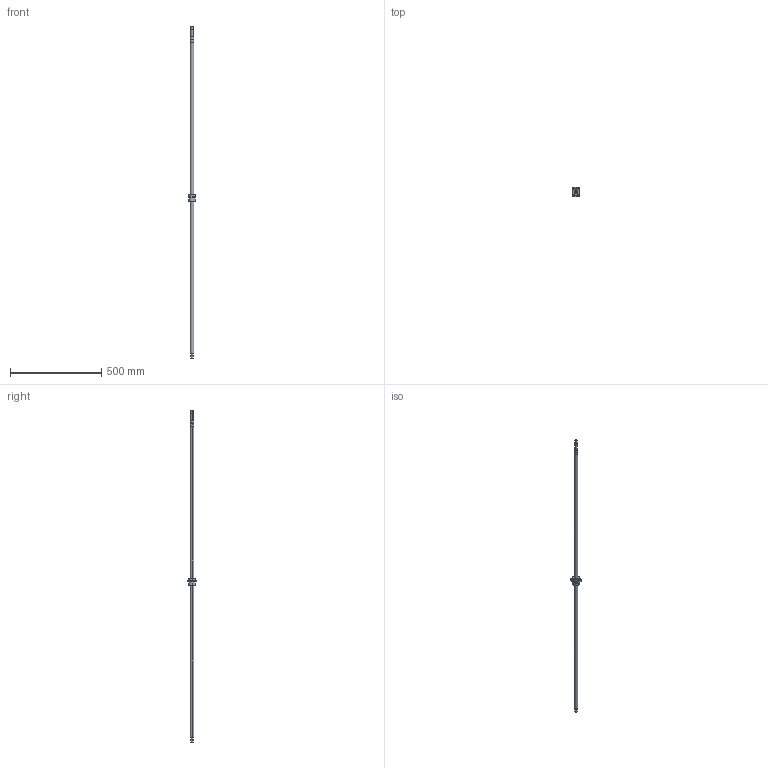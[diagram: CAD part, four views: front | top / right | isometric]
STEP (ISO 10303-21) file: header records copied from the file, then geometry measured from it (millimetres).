
FILE_DESCRIPTION((''),'2;1');
FILE_NAME('2R20-40V2-DFSH-1706-1820','2008-03-27T',('wcwu'),(''),'PRO/ENGINEER BY PARAMETRIC TECHNOLOGY CORPORATION, 2005070','PRO/ENGINEER BY PARAMETRIC TECHNOLOGY CORPORATION, 2005070','');
FILE_SCHEMA(('CONFIG_CONTROL_DESIGN'));
Length unit declared in the file: millimetre
Products named in the file (1): 2R20-40V2-DFSH-1706-1820
Bounding box: 40 x 52 x 1820 mm (x, y, z)
Volume: 598750.5 mm3; surface area: 120205.9 mm2
Topology: 1 solids, 1 shells, 56 faces, 128 edges, 84 vertices
Faces by surface type: cylinder 34, plane 22
Entity records: 1666 total; most frequent: DIRECTION 312, CARTESIAN_POINT 268, ORIENTED_EDGE 256, AXIS2_PLACEMENT_3D 128, EDGE_CURVE 128, VERTEX_POINT 84, EDGE_LOOP 74, CIRCLE 72
